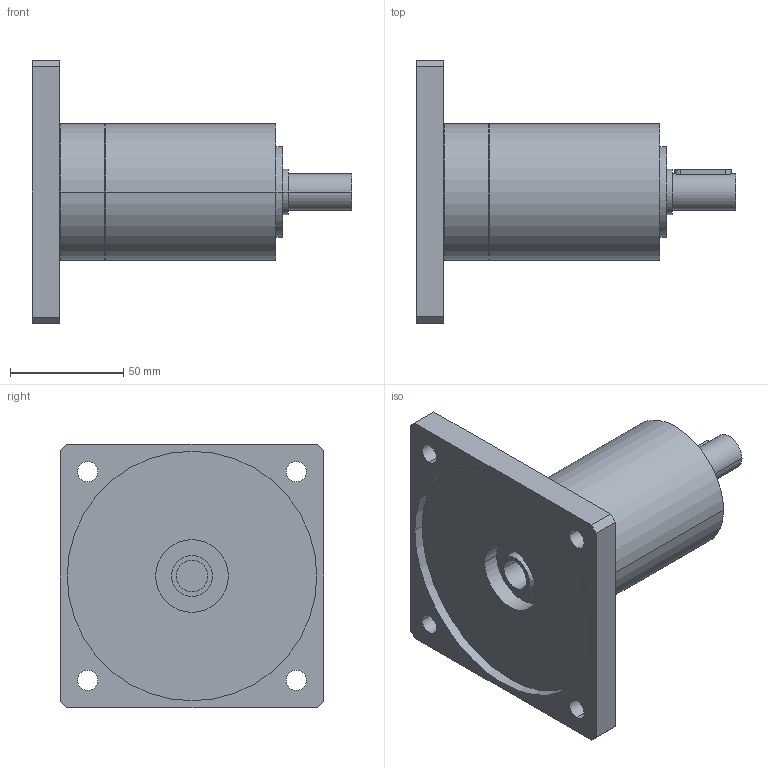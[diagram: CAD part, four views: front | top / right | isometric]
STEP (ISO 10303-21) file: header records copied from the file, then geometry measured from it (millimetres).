
FILE_DESCRIPTION(('CoCreate Modeling STEP Export'),'2;1');
FILE_NAME('GPR75_ig-9-12-16-20-24-30-36_16_B14_14_P09.stp','2014-08-25T16:45:12',(''),(''),'CoCreate Modeling STEP processor for AP214 (Solid Model)','CoCreate Modeling 16.00C 25-Feb-2009 (C) Parametric Technology GmbH','');
FILE_SCHEMA(('AUTOMOTIVE_DESIGN { 1 0 10303 214 1 1 1 1 }'));
Length unit declared in the file: millimetre
Products named in the file (2): GPR75_ig-9-12-16-20-24-30-36_16_B14_14_P09
Assembly tree (1 placements, depth 2):
  GPR75_ig-9-12-16-20-24-30-36_16_B14_14_P09
    GPR75_ig-9-12-16-20-24-30-36_16_B14_14_P09
Bounding box: 140.9 x 116 x 116 mm (x, y, z)
Volume: 385369.5 mm3; surface area: 58043.7 mm2
Topology: 1 solids, 1 shells, 70 faces, 188 edges, 132 vertices
Faces by surface type: cylinder 42, plane 22, cone 6
Entity records: 1939 total; most frequent: ORIENTED_EDGE 372, CARTESIAN_POINT 360, DIRECTION 262, EDGE_CURVE 186, VERTEX_POINT 132, AXIS2_PLACEMENT_3D 98, EDGE_LOOP 92, FACE_OUTER_BOUND 70
